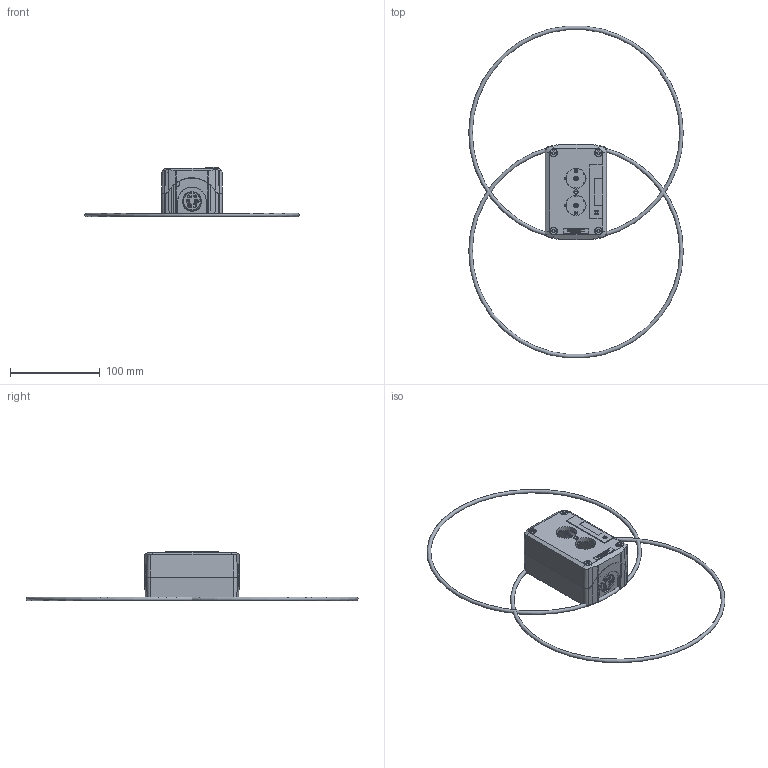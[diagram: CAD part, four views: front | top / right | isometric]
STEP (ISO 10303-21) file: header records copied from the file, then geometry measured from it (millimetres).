
FILE_DESCRIPTION((''),'2;1');
FILE_NAME('XALD02','2016-02-01T',('EBBX743'),('Schneider-Electric'),'PRO/ENGINEER BY PARAMETRIC TECHNOLOGY CORPORATION, 2014310','PRO/ENGINEER BY PARAMETRIC TECHNOLOGY CORPORATION, 2014310','');
FILE_SCHEMA(('CONFIG_CONTROL_DESIGN'));
Products named in the file (1): XALD02
Bounding box: 238.72 x 369.52 x 55 mm (x, y, z)
Surface area: 116325.8 mm2 (no closed solid volume)
Topology: 0 solids, 0 shells, 1267 faces, 12744 edges, 12722 vertices
Faces by surface type: bspline 1245, torus 16, sphere 6
Entity records: 208198 total; most frequent: CARTESIAN_POINT 84345, DIRECTION 20167, TRIMMED_CURVE 19301, VECTOR 18479, LINE 18479, DEFINITIONAL_REPRESENTATION 12706, PCURVE 12706, COMPOSITE_CURVE_SEGMENT 12706
